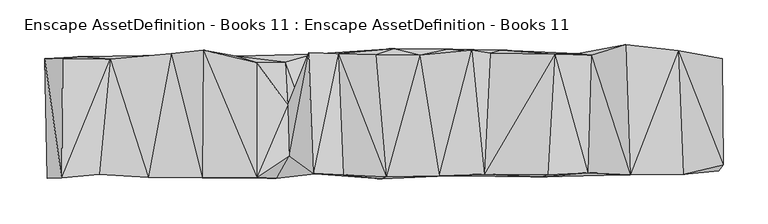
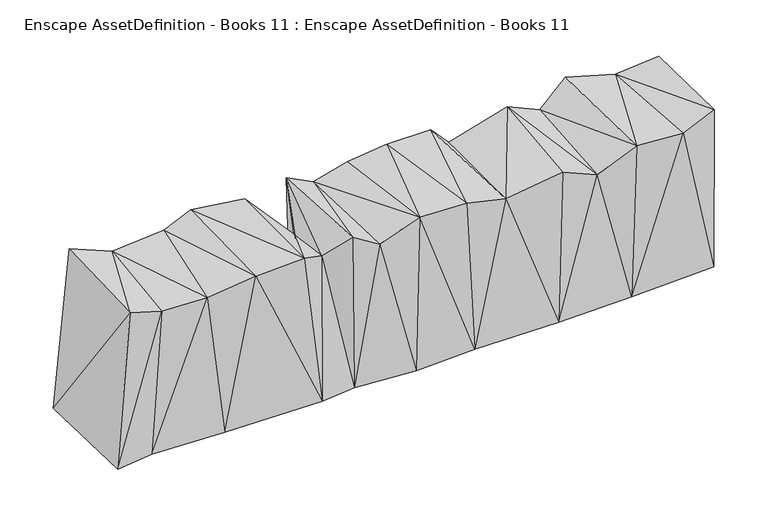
"""IFC4 building model written with IfcOpenShell, lengths in millimetres: geographic element geometry, Enscape AssetDefinition - Books 11 : Enscape AssetDefinition - Books 11."""

from ifc_helpers import new_model, si_unit, origin, place, context, project, spatial, faceted_brep, source, transform, mapped, element, save


def enscape_assetdefinition_books_11_enscape_assetdefinition_afcb8159(model_context):
    return source(origin(), model_context, "Body", "Brep", [
        faceted_brep([(-352.1562517, -71.4327618, 199.7380704), (-370.8228767, 61.6197363, 0.0), (-368.1800067, -72.1306428, 0.0), (-351.1992097, 61.239291, 202.8517425), (-322.0525682, -65.8366978, 0.0), (-329.4569254, 63.4327829, 0.0), (-310.4562163, -67.3965141, 184.7842932), (-298.1204093, 61.088305, 181.1748594), (-228.2676548, 65.3337985, 0.0), (-233.4238291, -69.0454915, 0.0), (-255.9864223, -70.5827177, 185.448885), (-230.5847704, 66.9922903, 181.7776263), (-158.4898233, 64.2376542, 0.0), (-194.8660314, 70.8418936, 193.8055307), (-113.6107147, -71.7597082, 0.0), (-196.1393058, -71.3019893, 192.8687096), (-135.4373991, 57.0996068, 195.682779), (-135.488525, -70.7313269, 194.9171424), (-103.9344072, 57.4657805, 58.6713105), (-72.8415921, 66.5298179, 0.0), (-101.0715812, 9.5788194, 165.0952399), (-99.4856134, -46.6410145, 171.435535), (-70.6623718, -66.8995604, 0.0), (-77.592358, 67.9279417, 196.3687688), (-72.6549327, -66.478692, 198.3851194), (-88.0628452, 14.2118912, 64.9593025), (-44.7887369, 67.2110468, 180.1013052), (-39.5243727, -67.86374, 178.2228798), (2.651206, -72.4468753, 0.0), (8.3019603, -70.5137551, 198.3209103), (16.5361539, 72.8332698, 0.0), (-3.0375924, 66.1101416, 192.5179958), (77.4223506, -69.1263303, 0.0), (67.4143434, -69.2725703, 195.5936104), (45.586478, 65.2327463, 199.0199685), (76.7815486, 72.1425265, 0.0), (117.4519956, -67.3465803, 182.5599074), (181.0999662, -70.4162717, 0.0), (135.4778111, 71.0879937, 0.0), (103.67167, 70.7146823, 194.6222931), (124.0063012, 67.4476326, 173.0559766), (195.8777606, 66.1695823, 195.0812042), (221.2056816, 66.8448731, 0.0), (187.7624542, -68.2513192, 193.4750229), (232.2278172, -65.7059178, 172.9323417), (236.3187522, 65.5977353, 177.4679273), (273.4915316, -68.1466907, 0.0), (365.789175, 64.3066093, 0.0), (274.6506631, 76.723285, 200.3717422), (279.6118855, -68.2227835, 196.5351999), (338.2154405, -67.3168525, 191.4039999), (378.0881166, -63.5290816, 0.0), (381.6868961, 61.2285919, 199.6893138), (333.0520988, 70.4602599, 187.4806881), (382.6546371, -56.8095222, 200.2837658)], [[[0, 1, 2]], [[1, 0, 3]], [[1, 4, 2]], [[1, 5, 4]], [[3, 5, 1]], [[6, 2, 4]], [[6, 0, 2]], [[7, 0, 6]], [[7, 3, 0]], [[3, 7, 5]], [[5, 7, 8]], [[5, 8, 4]], [[8, 9, 4]], [[10, 4, 9]], [[10, 6, 4]], [[7, 6, 10]], [[7, 11, 8]], [[11, 7, 10]], [[12, 9, 8]], [[13, 12, 8]], [[13, 8, 11]], [[14, 15, 9]], [[15, 10, 9]], [[12, 14, 9]], [[11, 10, 15]], [[13, 11, 15]], [[13, 16, 12]], [[13, 15, 17]], [[13, 17, 16]], [[18, 19, 12]], [[12, 19, 14]], [[12, 16, 18]], [[16, 17, 20]], [[16, 20, 18]], [[17, 15, 14]], [[21, 17, 14]], [[21, 20, 17]], [[22, 21, 14]], [[19, 22, 14]], [[23, 21, 24]], [[23, 20, 21]], [[21, 22, 24]], [[25, 20, 23]], [[25, 18, 20]], [[19, 18, 25]], [[23, 19, 25]], [[26, 23, 24]], [[23, 26, 19]], [[26, 24, 27]], [[27, 24, 22]], [[27, 22, 28]], [[19, 28, 22]], [[26, 27, 29]], [[28, 29, 27]], [[26, 30, 19]], [[26, 31, 30]], [[31, 26, 29]], [[29, 32, 33]], [[32, 29, 28]], [[34, 31, 29]], [[34, 29, 33]], [[30, 32, 28]], [[19, 30, 28]], [[35, 32, 30]], [[34, 30, 31]], [[34, 35, 30]], [[36, 33, 32]], [[37, 36, 32]], [[37, 32, 38]], [[38, 32, 35]], [[39, 33, 36]], [[39, 34, 33]], [[34, 40, 35]], [[39, 40, 34]], [[40, 38, 35]], [[40, 41, 38]], [[38, 42, 37]], [[41, 42, 38]], [[39, 36, 40]], [[41, 40, 36]], [[43, 36, 37]], [[43, 41, 36]], [[41, 43, 44]], [[45, 41, 44]], [[41, 45, 42]], [[42, 46, 37]], [[42, 47, 46]], [[48, 42, 45]], [[48, 47, 42]], [[49, 45, 44]], [[48, 45, 49]], [[49, 44, 46]], [[46, 44, 37]], [[44, 43, 37]], [[50, 46, 51]], [[49, 46, 50]], [[46, 47, 51]], [[47, 52, 51]], [[53, 52, 47]], [[48, 53, 47]], [[53, 48, 49]], [[50, 53, 49]], [[54, 50, 51]], [[53, 50, 54]], [[52, 54, 51]], [[52, 53, 54]]]),
    ])


if __name__ == "__main__":
    model = new_model("IFC4")
    model_context = context("Model", 3, world=origin())
    ifc_project = project(units=[si_unit("LENGTHUNIT", "METRE", prefix="MILLI")], contexts=[model_context])
    site = spatial("IfcSite", under=ifc_project)
    building = spatial("IfcBuilding", under=site)
    placement = place(None, origin())
    enscape_assetdefinition_books_11_enscape_assetdefinition_shape = enscape_assetdefinition_books_11_enscape_assetdefinition_afcb8159(model_context)
    element("IfcGeographicElement", 1, ObjectType="Enscape AssetDefinition - Books 11 : Enscape AssetDefinition - Books 11", at=placement, inside=building, context=model_context, shape_type="MappedRepresentation", body=[
        mapped(enscape_assetdefinition_books_11_enscape_assetdefinition_shape, transform((0.0, 0.0, 0.0), x_axis=(1.0, 0.0, 0.0), y_axis=(0.0, 1.0, 0.0), z_axis=(0.0, 0.0, 1.0))),
    ])
    save(model, "model.ifc")
